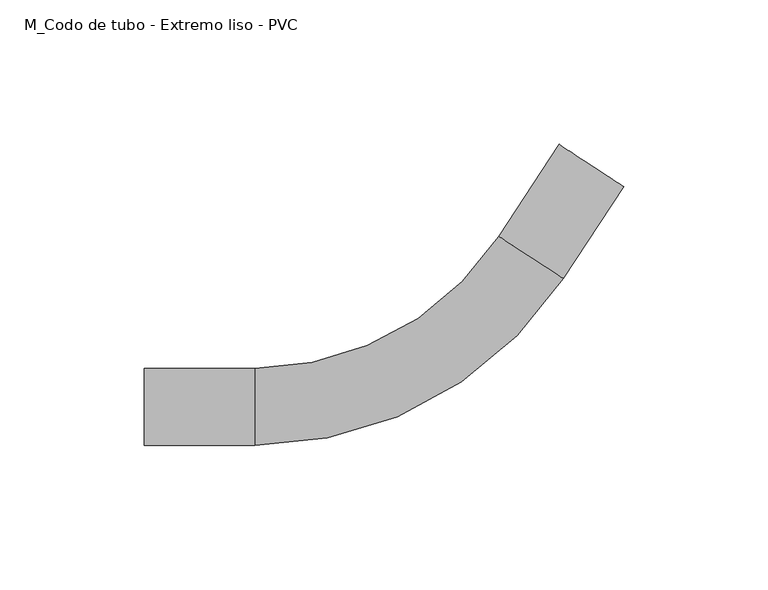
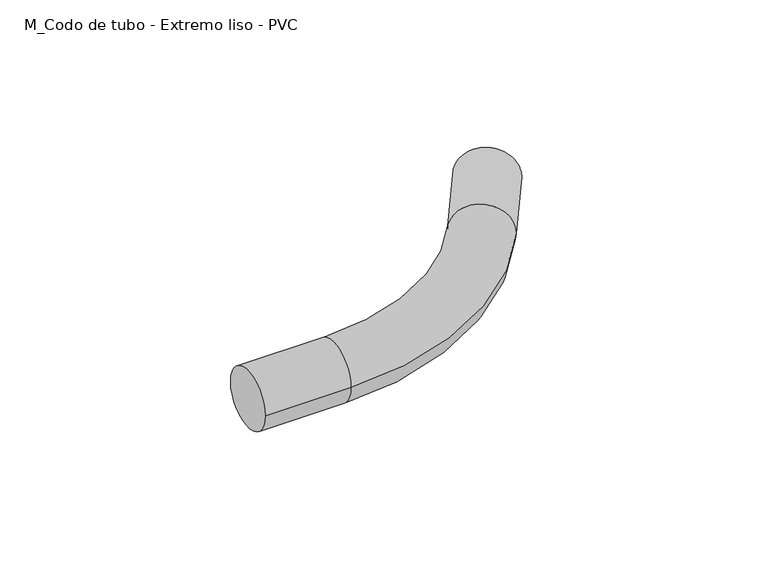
"""IFC4 building model written with IfcOpenShell, lengths in millimetres: cable carrier fitting geometry, M_Codo de tubo - Extremo liso - PVC : CODO ILUMINACION."""

from ifc_helpers import new_model, si_unit, point, frame, origin, place, context, project, spatial, circle_curve, ellipse_curve, trimmed, source, transform, mapped, element, save
from ifc_brep_helpers import plane_surface, cylinder_surface, revolved_surface, advanced_brep


def m_codo_de_tubo_extremo_liso_pvc_76d9b60b(model_context):
    return source(origin(), model_context, "Body", "AdvancedBrep", [
        advanced_brep(
        [(-99.8918731, -13.335, 0.0), (-99.8918731, 13.335, 0.0), (-61.7918731, -13.335, 0.0), (-61.7918731, 13.335, 0.0), (22.6846196, 59.0039477, 0.0), (44.9991649, 44.3974433, 0.0), (65.8655997, 76.2753651, 0.0), (43.5510544, 90.8818695, 0.0)],
        [
            (0, 1, circle_curve(frame((-99.8918731, 0.0, 0.0), z_axis=(-1.0, 0.0, 0.0), x_axis=(0.0, 1.0, 0.0)), 13.335)),
            (1, 0, circle_curve(frame((-99.8918731, 0.0, 0.0), z_axis=(-1.0, 0.0, 0.0), x_axis=(0.0, 1.0, 0.0)), 13.335)),
            (0, 2),
            (2, 3, circle_curve(frame((-61.7918731, 0.0, 0.0), z_axis=(-1.0, 0.0, 0.0), x_axis=(0.0, 1.0, 0.0)), 13.335)),
            (3, 1),
            (3, 2, circle_curve(frame((-61.7918731, 0.0, 0.0), z_axis=(-1.0, 0.0, 0.0), x_axis=(0.0, 1.0, 0.0)), 13.335)),
            (4, 3, circle_curve(frame((-61.7918731, 114.3, 0.0), z_axis=(0.0, 0.0, -1.0), x_axis=(0.0, -1.0, 0.0)), 100.965)),
            (2, 5, circle_curve(frame((-61.7918731, 114.3, 0.0), z_axis=(0.0, 0.0, 1.0), x_axis=(0.0, -1.0, 0.0)), 127.635)),
            (5, 4, circle_curve(frame((33.8418922, 51.7006955, 0.0), z_axis=(-0.5476754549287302, -0.8366908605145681, 0.0), x_axis=(-0.8366908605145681, 0.5476754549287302, 0.0)), 13.335)),
            (4, 5, circle_curve(frame((33.8418922, 51.7006955, 0.0), z_axis=(-0.5476754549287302, -0.8366908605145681, 0.0), x_axis=(-0.8366908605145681, 0.5476754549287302, 0.0)), 13.335)),
            (6, 7, circle_curve(frame((54.7083271, 83.5786173, 0.0), z_axis=(0.54767545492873, 0.8366908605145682, 0.0), x_axis=(-0.8366908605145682, 0.54767545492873, 0.0)), 13.335)),
            (7, 6, circle_curve(frame((54.7083271, 83.5786173, 0.0), z_axis=(0.54767545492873, 0.8366908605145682, 0.0), x_axis=(-0.8366908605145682, 0.54767545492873, 0.0)), 13.335)),
            (5, 6),
            (7, 4),
        ],
        [
            plane_surface(frame((-99.8918731, 0.0, 0.0), z_axis=(-1.0, 0.0, 0.0), x_axis=(0.0, 0.0, 1.0))),
            cylinder_surface(frame((-99.8918731, 0.0, 0.0), z_axis=(-1.0, 0.0, 0.0), x_axis=(0.0, 1.0, 0.0)), 13.335),
            revolved_surface(trimmed(ellipse_curve(frame((-61.7918731, 0.0, 0.0), z_axis=(-1.0, 0.0, 0.0), x_axis=(0.0, 1.0, 0.0)), 13.335, 13.335), [point((-61.7918731, -13.335, 0.0))], [point((-61.7918731, 13.335, 0.0))], True, "CARTESIAN"), (-61.7918731, 114.3, 0.0), (0.0, 0.0, 1.0)),
            revolved_surface(trimmed(ellipse_curve(frame((-61.7918731, 0.0, 0.0), z_axis=(-1.0, 0.0, 0.0), x_axis=(0.0, 1.0, 0.0)), 13.335, 13.335), [point((-61.7918731, 13.335, 0.0))], [point((-61.7918731, -13.335, 0.0))], True, "CARTESIAN"), (-61.7918731, 114.3, 0.0), (0.0, 0.0, 1.0)),
            plane_surface(frame((54.7083271, 83.5786173, 0.0), z_axis=(0.5476754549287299, 0.8366908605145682, 0.0), x_axis=(0.0, 0.0, 1.0))),
            cylinder_surface(frame((33.8418922, 51.7006955, 0.0), z_axis=(-0.54767545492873, -0.8366908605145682, 0.0), x_axis=(-0.8366908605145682, 0.54767545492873, 0.0)), 13.335),
        ],
        [
            (0, [[1, 2]]),
            (1, [[-1, 3, 4, 5]]),
            (1, [[-2, -5, 6, -3]]),
            (2, [[7, -4, 8, 9]]),
            (3, [[-8, -6, -7, 10]]),
            (4, [[11, 12]]),
            (5, [[-9, 13, -12, 14]]),
            (5, [[-10, -14, -11, -13]]),
        ],
    ),
    ])


if __name__ == "__main__":
    model = new_model("IFC4")
    model_context = context("Model", 3, world=origin())
    ifc_project = project(units=[si_unit("LENGTHUNIT", "METRE", prefix="MILLI")], contexts=[model_context])
    site = spatial("IfcSite", under=ifc_project)
    building = spatial("IfcBuilding", under=site)
    placement = place(None, origin())
    m_codo_de_tubo_extremo_liso_pvc_shape = m_codo_de_tubo_extremo_liso_pvc_76d9b60b(model_context)
    element("IfcCableCarrierFitting", 1, ObjectType="M_Codo de tubo - Extremo liso - PVC : CODO ILUMINACION", at=placement, inside=building, context=model_context, shape_type="MappedRepresentation", body=[
        mapped(m_codo_de_tubo_extremo_liso_pvc_shape, transform((0.0, 0.0, 0.0), x_axis=(1.0, 0.0, 0.0), y_axis=(0.0, 1.0, 0.0), z_axis=(0.0, 0.0, 1.0))),
    ])
    save(model, "model.ifc")
